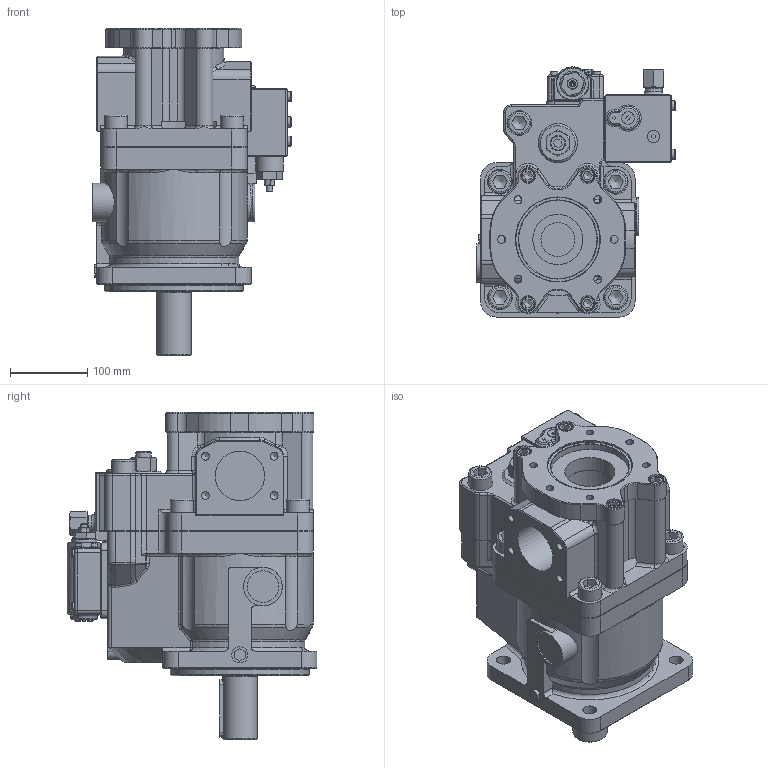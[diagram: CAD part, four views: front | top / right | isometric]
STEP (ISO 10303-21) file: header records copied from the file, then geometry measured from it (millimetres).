
FILE_DESCRIPTION((''),'2;1');
FILE_NAME('C:\Users\MNorman\Desktop\TEMP STUFF\K3VL112 B-1BRMM-L1 1-H1.stp','2012-11-12T09:45:04',('mnorman'),(''),'Autodesk Inventor 2013','Autodesk Inventor 2013','');
FILE_SCHEMA(('AUTOMOTIVE_DESIGN { 1 0 10303 214 1 1 1 1 }'));
Length unit declared in the file: millimetre
Products named in the file (1): Part1
Bounding box: 257 x 323.97 x 424.5 mm (x, y, z)
Volume: 12108576.1 mm3; surface area: 715828.3 mm2
Topology: 47 solids, 48 shells, 1466 faces, 3429 edges, 2110 vertices
Faces by surface type: plane 649, cylinder 367, cone 246, bspline 89, torus 85, sphere 30
Full cylindrical faces by diameter (mm): 4.917 x4, 6 x4, 6.6 x4, 6.647 x13, 8 x14, 9 x4, 9.5 x4, 10 x4, 10.106 x14, 11 x6, 11.835 x4, 12 x4, 12.376 x1, 12.717 x1, 13 x8, 13.5 x4, 13.835 x1, 14 x4, 16 x2, 17.294 x6, 18 x8, 19.177 x1, 20 x10, 21 x1, 22 x5, 22.4 x1, 24 x2, 26 x1, 30 x6, 32 x6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
Entity records: 43461 total; most frequent: CARTESIAN_POINT 11063, DIRECTION 6334, ORIENTED_EDGE 5972, EDGE_CURVE 2986, AXIS2_PLACEMENT_3D 2533, VERTEX_POINT 1981, EDGE_LOOP 1911, STYLED_ITEM 1511
